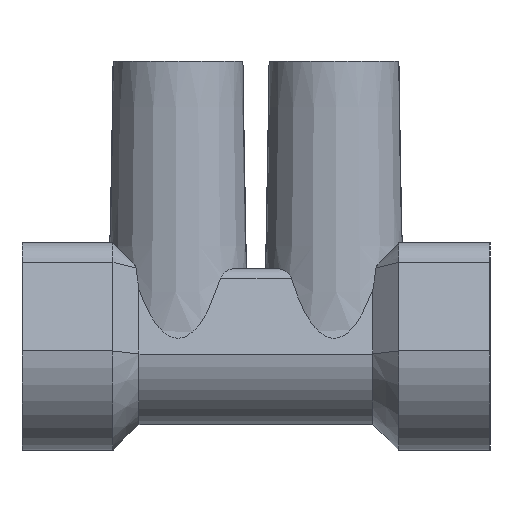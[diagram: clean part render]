
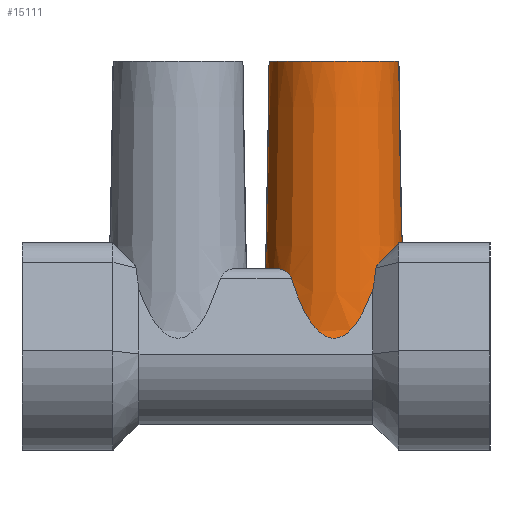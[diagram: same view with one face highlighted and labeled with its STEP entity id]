
A CAD part, left-side view. The second image highlights one B-rep face of the part: STEP entity #15111.
In plain terms, the highlighted conical face has half-angle 1 degrees and reference radius 2.5 mm.
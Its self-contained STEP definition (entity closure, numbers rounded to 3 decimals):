
#3584=ELLIPSE('',#16394,9.836,2.515);
#3586=ELLIPSE('',#16402,9.836,2.515);
#3587=ELLIPSE('',#16404,9.836,2.515);
#3588=ELLIPSE('',#16405,14.545,2.623);
#3589=ELLIPSE('',#16406,3.771,2.666);
#3590=ELLIPSE('',#16408,3.771,2.666);
#3591=ELLIPSE('',#16409,14.545,2.623);
#3736=B_SPLINE_CURVE_WITH_KNOTS('',3,(#24145,#24146,#24147,#24148),
 .UNSPECIFIED.,.F.,.F.,(4,4),(0.002,0.004),
 .UNSPECIFIED.);
#3738=B_SPLINE_CURVE_WITH_KNOTS('',3,(#24195,#24196,#24197,#24198,#24199),
 .UNSPECIFIED.,.F.,.F.,(4,1,4),(0.,0.,
0.001),.UNSPECIFIED.);
#3739=B_SPLINE_CURVE_WITH_KNOTS('',3,(#24203,#24204,#24205,#24206,#24207),
 .UNSPECIFIED.,.F.,.F.,(4,1,4),(0.,0.,0.001),
 .UNSPECIFIED.);
#3740=B_SPLINE_CURVE_WITH_KNOTS('',3,(#24213,#24214,#24215,#24216),
 .UNSPECIFIED.,.F.,.F.,(4,4),(0.003,0.004),
 .UNSPECIFIED.);
#3741=B_SPLINE_CURVE_WITH_KNOTS('',3,(#24224,#24225,#24226,#24227),
 .UNSPECIFIED.,.F.,.F.,(4,4),(0.003,0.004),
 .UNSPECIFIED.);
#4726=ORIENTED_EDGE('',*,*,#9071,.T.);
#4727=ORIENTED_EDGE('',*,*,#9051,.F.);
#4728=ORIENTED_EDGE('',*,*,#9058,.T.);
#4729=ORIENTED_EDGE('',*,*,#9072,.T.);
#4730=ORIENTED_EDGE('',*,*,#9073,.T.);
#4731=ORIENTED_EDGE('',*,*,#9074,.F.);
#4732=ORIENTED_EDGE('',*,*,#9075,.T.);
#4733=ORIENTED_EDGE('',*,*,#9076,.T.);
#4734=ORIENTED_EDGE('',*,*,#9077,.F.);
#4735=ORIENTED_EDGE('',*,*,#9078,.T.);
#4736=ORIENTED_EDGE('',*,*,#9079,.T.);
#4737=ORIENTED_EDGE('',*,*,#9080,.F.);
#4738=ORIENTED_EDGE('',*,*,#9081,.T.);
#4739=ORIENTED_EDGE('',*,*,#9082,.T.);
#4740=ORIENTED_EDGE('',*,*,#9083,.F.);
#4741=ORIENTED_EDGE('',*,*,#9062,.T.);
#9051=EDGE_CURVE('',#11236,#11237,#3736,.T.);
#9058=EDGE_CURVE('',#11236,#11242,#12340,.T.);
#9062=EDGE_CURVE('',#11244,#11237,#3584,.F.);
#9071=EDGE_CURVE('',#11250,#11250,#12344,.T.);
#9072=EDGE_CURVE('',#11242,#11251,#3586,.F.);
#9073=EDGE_CURVE('',#11251,#11252,#3738,.T.);
#9074=EDGE_CURVE('',#11253,#11252,#12345,.T.);
#9075=EDGE_CURVE('',#11253,#11254,#3739,.T.);
#9076=EDGE_CURVE('',#11254,#11255,#3587,.F.);
#9077=EDGE_CURVE('',#11256,#11255,#3588,.F.);
#9078=EDGE_CURVE('',#11256,#11257,#3740,.T.);
#9079=EDGE_CURVE('',#11257,#11258,#3589,.T.);
#9080=EDGE_CURVE('',#11259,#11258,#12346,.T.);
#9081=EDGE_CURVE('',#11259,#11260,#3590,.T.);
#9082=EDGE_CURVE('',#11260,#11261,#3741,.T.);
#9083=EDGE_CURVE('',#11244,#11261,#3591,.F.);
#11236=VERTEX_POINT('',#24144);
#11237=VERTEX_POINT('',#24149);
#11242=VERTEX_POINT('',#24166);
#11244=VERTEX_POINT('',#24174);
#11250=VERTEX_POINT('',#24192);
#11251=VERTEX_POINT('',#24194);
#11252=VERTEX_POINT('',#24200);
#11253=VERTEX_POINT('',#24202);
#11254=VERTEX_POINT('',#24208);
#11255=VERTEX_POINT('',#24210);
#11256=VERTEX_POINT('',#24212);
#11257=VERTEX_POINT('',#24217);
#11258=VERTEX_POINT('',#24219);
#11259=VERTEX_POINT('',#24221);
#11260=VERTEX_POINT('',#24223);
#11261=VERTEX_POINT('',#24228);
#12340=CIRCLE('',#16390,2.648);
#12344=CIRCLE('',#16401,2.5);
#12345=CIRCLE('',#16403,2.64);
#12346=CIRCLE('',#16407,2.622);
#12914=EDGE_LOOP('',(#4726));
#12915=EDGE_LOOP('',(#4727,#4728,#4729,#4730,#4731,#4732,#4733,#4734,#4735,
#4736,#4737,#4738,#4739,#4740,#4741));
#13980=FACE_BOUND('',#12914,.T.);
#13981=FACE_BOUND('',#12915,.T.);
#14916=CONICAL_SURFACE('',#16400,2.5,0.017);
#15111=ADVANCED_FACE('',(#13980,#13981),#14916,.T.);
#16390=AXIS2_PLACEMENT_3D('',#24165,#18789,#18790);
#16394=AXIS2_PLACEMENT_3D('',#24173,#18799,#18800);
#16400=AXIS2_PLACEMENT_3D('',#24190,#18816,#18817);
#16401=AXIS2_PLACEMENT_3D('',#24191,#18818,#18819);
#16402=AXIS2_PLACEMENT_3D('',#24193,#18820,#18821);
#16403=AXIS2_PLACEMENT_3D('',#24201,#18822,#18823);
#16404=AXIS2_PLACEMENT_3D('',#24209,#18824,#18825);
#16405=AXIS2_PLACEMENT_3D('',#24211,#18826,#18827);
#16406=AXIS2_PLACEMENT_3D('',#24218,#18828,#18829);
#16407=AXIS2_PLACEMENT_3D('',#24220,#18830,#18831);
#16408=AXIS2_PLACEMENT_3D('',#24222,#18832,#18833);
#16409=AXIS2_PLACEMENT_3D('',#24229,#18834,#18835);
#18789=DIRECTION('',(0.,0.,1.));
#18790=DIRECTION('',(1.,0.,0.));
#18799=DIRECTION('',(-0.967,0.,-0.256));
#18800=DIRECTION('',(0.256,0.,-0.967));
#18816=DIRECTION('',(0.,0.,-1.));
#18817=DIRECTION('',(1.,0.,0.));
#18818=DIRECTION('',(0.,0.,-1.));
#18819=DIRECTION('',(-1.,0.,0.));
#18820=DIRECTION('',(-0.967,0.,-0.256));
#18821=DIRECTION('',(0.256,0.,-0.967));
#18822=DIRECTION('',(0.,0.,-1.));
#18823=DIRECTION('',(-1.,0.,0.));
#18824=DIRECTION('',(0.967,0.,-0.256));
#18825=DIRECTION('',(-0.256,0.,-0.967));
#18826=DIRECTION('',(-0.684,0.707,0.181));
#18827=DIRECTION('',(-0.126,0.13,-0.983));
#18828=DIRECTION('',(0.,0.707,0.707));
#18829=DIRECTION('',(0.,0.707,-0.707));
#18830=DIRECTION('',(0.,0.,-1.));
#18831=DIRECTION('',(-1.,0.,0.));
#18832=DIRECTION('',(0.,0.707,0.707));
#18833=DIRECTION('',(0.,0.707,-0.707));
#18834=DIRECTION('',(0.684,0.707,0.181));
#18835=DIRECTION('',(0.126,0.13,-0.983));
#24144=CARTESIAN_POINT('',(2.452,7.,2.5));
#24145=CARTESIAN_POINT('',(2.452,7.,2.5));
#24146=CARTESIAN_POINT('',(2.461,7.,2.041));
#24147=CARTESIAN_POINT('',(2.47,7.,1.581));
#24148=CARTESIAN_POINT('',(2.478,7.,1.122));
#24149=CARTESIAN_POINT('',(2.478,7.,1.122));
#24165=CARTESIAN_POINT('',(0.,6.,2.5));
#24166=CARTESIAN_POINT('',(2.113,7.597,2.5));
#24173=CARTESIAN_POINT('',(0.166,6.,9.846));
#24174=CARTESIAN_POINT('',(2.189,4.5,2.215));
#24190=CARTESIAN_POINT('',(0.,6.,11.));
#24191=CARTESIAN_POINT('',(0.,6.,11.));
#24192=CARTESIAN_POINT('',(-2.5,6.,11.));
#24193=CARTESIAN_POINT('',(0.166,6.,9.846));
#24194=CARTESIAN_POINT('',(2.079,7.637,2.628));
#24195=CARTESIAN_POINT('',(2.079,7.637,2.628));
#24196=CARTESIAN_POINT('',(2.045,7.676,2.755));
#24197=CARTESIAN_POINT('',(1.902,7.845,2.933));
#24198=CARTESIAN_POINT('',(1.704,8.021,3.));
#24199=CARTESIAN_POINT('',(1.596,8.103,3.));
#24200=CARTESIAN_POINT('',(1.596,8.103,3.));
#24201=CARTESIAN_POINT('',(0.,6.,3.));
#24202=CARTESIAN_POINT('',(-1.596,8.103,3.));
#24203=CARTESIAN_POINT('',(-1.596,8.103,3.));
#24204=CARTESIAN_POINT('',(-1.704,8.021,3.));
#24205=CARTESIAN_POINT('',(-1.902,7.846,2.934));
#24206=CARTESIAN_POINT('',(-2.046,7.676,2.755));
#24207=CARTESIAN_POINT('',(-2.079,7.637,2.628));
#24208=CARTESIAN_POINT('',(-2.079,7.637,2.628));
#24209=CARTESIAN_POINT('',(-0.166,6.,9.846));
#24210=CARTESIAN_POINT('',(-2.189,4.5,2.215));
#24211=CARTESIAN_POINT('',(-0.174,6.18,3.262));
#24212=CARTESIAN_POINT('',(-2.089,4.388,3.029));
#24213=CARTESIAN_POINT('',(-2.089,4.388,3.029));
#24214=CARTESIAN_POINT('',(-2.078,4.375,3.119));
#24215=CARTESIAN_POINT('',(-2.03,4.316,3.184));
#24216=CARTESIAN_POINT('',(-1.981,4.261,3.239));
#24217=CARTESIAN_POINT('',(-1.981,4.261,3.239));
#24218=CARTESIAN_POINT('',(0.,6.047,1.453));
#24219=CARTESIAN_POINT('',(-0.791,3.5,4.));
#24220=CARTESIAN_POINT('',(0.,6.,4.));
#24221=CARTESIAN_POINT('',(0.791,3.5,4.));
#24222=CARTESIAN_POINT('',(0.,6.047,1.453));
#24223=CARTESIAN_POINT('',(1.981,4.261,3.239));
#24224=CARTESIAN_POINT('',(1.981,4.261,3.239));
#24225=CARTESIAN_POINT('',(2.03,4.316,3.184));
#24226=CARTESIAN_POINT('',(2.078,4.375,3.12));
#24227=CARTESIAN_POINT('',(2.089,4.388,3.029));
#24228=CARTESIAN_POINT('',(2.089,4.388,3.029));
#24229=CARTESIAN_POINT('',(0.174,6.18,3.262));
